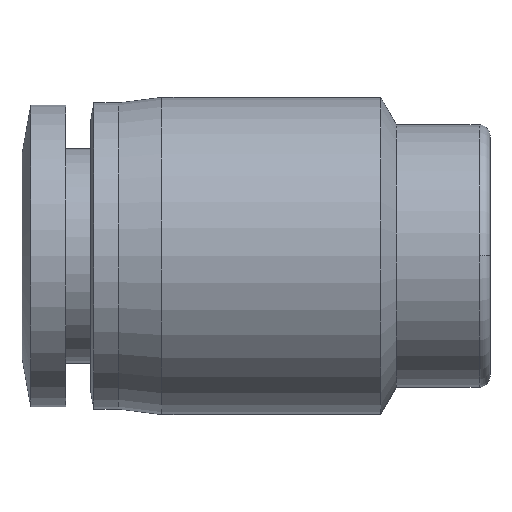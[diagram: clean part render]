
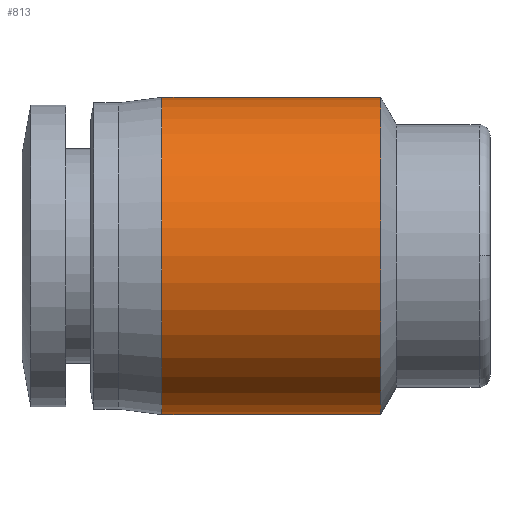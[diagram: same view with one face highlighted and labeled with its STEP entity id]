
A CAD part, top view. The second image highlights one B-rep face of the part: STEP entity #813.
In plain terms, the highlighted cylindrical face has radius 7.25 mm (diameter 14.5 mm), a partial arc.
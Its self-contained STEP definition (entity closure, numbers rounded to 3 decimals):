
#8 = VERTEX_POINT ( 'NONE', #726 ) ;
#13 = CARTESIAN_POINT ( 'NONE',  ( -5., 0., 0. ) ) ;
#28 = EDGE_CURVE ( 'NONE', #693, #775, #585, .T. ) ;
#83 = CARTESIAN_POINT ( 'NONE',  ( -10., -7.25, 0. ) ) ;
#95 = EDGE_CURVE ( 'NONE', #560, #8, #588, .T. ) ;
#126 = ORIENTED_EDGE ( 'NONE', *, *, #772, .F. ) ;
#153 = DIRECTION ( 'NONE',  ( 1., 0., 0. ) ) ;
#161 = CARTESIAN_POINT ( 'NONE',  ( -10., 0., 0. ) ) ;
#191 = ORIENTED_EDGE ( 'NONE', *, *, #552, .T. ) ;
#227 = FACE_OUTER_BOUND ( 'NONE', #727, .T. ) ;
#235 = VECTOR ( 'NONE', #729, 1000. ) ;
#254 = CARTESIAN_POINT ( 'NONE',  ( -15., 0., 0. ) ) ;
#352 = CIRCLE ( 'NONE', #835, 7.25 ) ;
#355 = DIRECTION ( 'NONE',  ( 0., 1., 0. ) ) ;
#387 = DIRECTION ( 'NONE',  ( 1., 0., 0. ) ) ;
#488 = CARTESIAN_POINT ( 'NONE',  ( -15., 7.25, 0. ) ) ;
#537 = DIRECTION ( 'NONE',  ( 0., 1., 0. ) ) ;
#552 = EDGE_CURVE ( 'NONE', #693, #560, #352, .T. ) ;
#560 = VERTEX_POINT ( 'NONE', #783 ) ;
#585 = LINE ( 'NONE', #668, #832 ) ;
#588 = LINE ( 'NONE', #83, #235 ) ;
#591 = AXIS2_PLACEMENT_3D ( 'NONE', #13, #684, #355 ) ;
#668 = CARTESIAN_POINT ( 'NONE',  ( -10., 7.25, 0. ) ) ;
#684 = DIRECTION ( 'NONE',  ( 1., 0., 0. ) ) ;
#689 = CIRCLE ( 'NONE', #591, 7.25 ) ;
#691 = ORIENTED_EDGE ( 'NONE', *, *, #95, .T. ) ;
#693 = VERTEX_POINT ( 'NONE', #488 ) ;
#726 = CARTESIAN_POINT ( 'NONE',  ( -5., -7.25, 0. ) ) ;
#727 = EDGE_LOOP ( 'NONE', ( #191, #691, #126, #730 ) ) ;
#729 = DIRECTION ( 'NONE',  ( 1., 0., 0. ) ) ;
#730 = ORIENTED_EDGE ( 'NONE', *, *, #28, .F. ) ;
#741 = CYLINDRICAL_SURFACE ( 'NONE', #803, 7.25 ) ;
#747 = DIRECTION ( 'NONE',  ( 1., 0., 0. ) ) ;
#772 = EDGE_CURVE ( 'NONE', #775, #8, #689, .T. ) ;
#775 = VERTEX_POINT ( 'NONE', #812 ) ;
#783 = CARTESIAN_POINT ( 'NONE',  ( -15., -7.25, 0. ) ) ;
#798 = DIRECTION ( 'NONE',  ( 0., 1., 0. ) ) ;
#803 = AXIS2_PLACEMENT_3D ( 'NONE', #161, #747, #537 ) ;
#812 = CARTESIAN_POINT ( 'NONE',  ( -5., 7.25, 0. ) ) ;
#813 = ADVANCED_FACE ( 'NONE', ( #227 ), #741, .T. ) ;
#832 = VECTOR ( 'NONE', #387, 1000. ) ;
#835 = AXIS2_PLACEMENT_3D ( 'NONE', #254, #153, #798 ) ;
